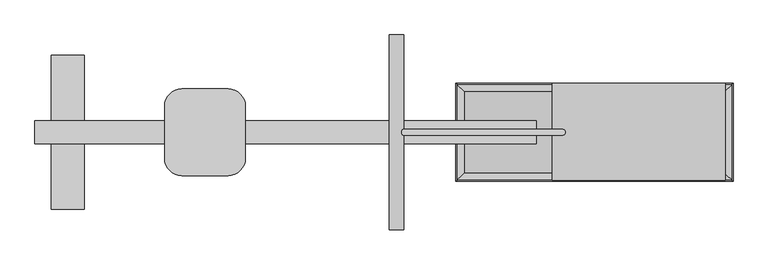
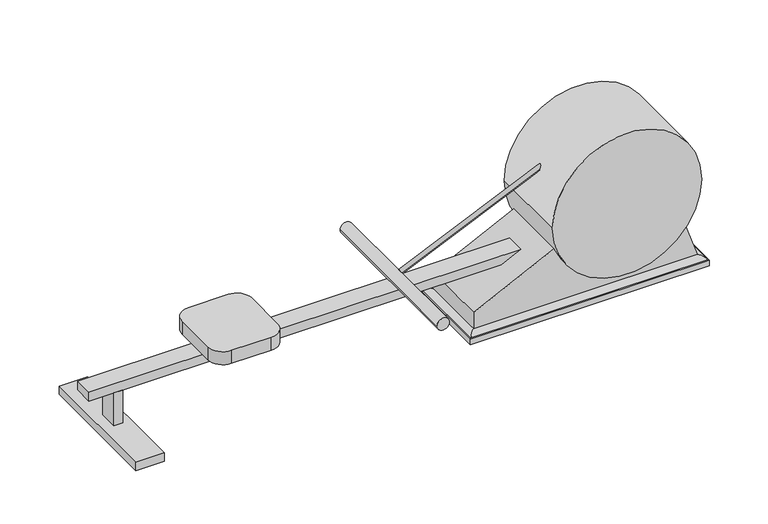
"""IFC4 building model written with IfcOpenShell, lengths in millimetres: proxy geometry, Rowing_Machine : Rowing_Machine."""

from ifc_helpers import new_model, si_unit, point, frame, frame_2d, origin, place, context, project, spatial, polyline, circle_curve, ellipse_curve, trimmed, segment, composite_curve, outline, extrude, source, transform, mapped, element, save
from ifc_brep_helpers import plane_surface, cylinder_surface, advanced_brep


def generic_models_89150c6d(model_context):
    return source(origin(), model_context, "Body", "SolidModel", [
        extrude(outline(composite_curve([segment(trimmed(circle_curve(frame_2d((0.0, -10.0)), 10.0), [point((0.0, -20.0))], [point((0.0, 0.0))], False, "CARTESIAN"), True, "CONTINUOUS"), segment(trimmed(circle_curve(frame_2d((0.0, -10.0)), 10.0), [point((0.0, 0.0))], [point((0.0, -20.0))], False, "CARTESIAN"), True, "CONTINUOUS")], self_intersect=False)), frame((274.6475494, 10.0, 271.2129273), z_axis=(0.9135454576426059, 0.0, 0.40673664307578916), x_axis=(0.40673664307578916, 0.0, -0.9135454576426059)), (0.0, 0.0, 1.0), 683.4765377),
        extrude(outline(composite_curve([segment(trimmed(circle_curve(frame_2d((261.8075714, 252.782963)), 25.0), [point((261.8075714, 227.782963))], [point((261.8075714, 277.782963))], False, "CARTESIAN"), True, "CONTINUOUS"), segment(trimmed(circle_curve(frame_2d((261.8075714, 252.782963)), 25.0), [point((261.8075714, 277.782963))], [point((261.8075714, 227.782963))], False, "CARTESIAN"), True, "CONTINUOUS")], self_intersect=False)), frame((0.0, -337.3168164, 0.0), z_axis=(0.0, 1.0, 0.0), x_axis=(0.0, 0.0, 1.0)), (0.0, 0.0, 1.0), 674.6336328),
        extrude(outline(polyline([(-828.5371111, -267.0975454), (-943.5371111, -267.0975454), (-943.5371111, 267.0975454), (-828.5371111, 267.0975454), (-828.5371111, -267.0975454)])), frame((0.0, 0.0, 15.0), z_axis=(0.0, 0.0, 1.0), x_axis=(1.0, 0.0, 0.0)), (0.0, 0.0, 1.0), 35.0),
        extrude(outline(polyline([(-865.0, -39.2377817), (-900.0, -39.2377817), (-900.0, 39.2377817), (-865.0, 39.2377817), (-865.0, -39.2377817)])), frame((0.0, 0.0, 51.6784333), z_axis=(0.0, 0.0, 1.0), x_axis=(1.0, 0.0, 0.0)), (0.0, 0.0, 1.0), 140.0),
        extrude(outline(polyline([(241.1168746, -314.73941), (241.1168746, -490.9165532), (188.4646802, -465.0509869), (188.4646802, -340.6049763), (241.1168746, -314.73941)])), frame((0.0, -44.2724638, 0.0), z_axis=(0.0, 1.0, 0.0), x_axis=(0.0, 0.0, 1.0)), (0.0, 0.0, 1.0), 89.2221097),
        extrude(outline(composite_curve([segment(polyline([(-330.9165532, -150.0), (-490.9165532, -150.0)]), True, "CONTINUOUS"), segment(trimmed(circle_curve(frame_2d((-490.9165532, -90.0)), 60.0), [point((-490.9165532, -150.0))], [point((-550.9165532, -90.0))], False, "CARTESIAN"), True, "CONTINUOUS"), segment(polyline([(-550.9165532, -90.0), (-550.9165532, 90.0)]), True, "CONTINUOUS"), segment(trimmed(circle_curve(frame_2d((-490.9165532, 90.0)), 60.0), [point((-550.9165532, 90.0))], [point((-490.9165532, 150.0))], False, "CARTESIAN"), True, "CONTINUOUS"), segment(polyline([(-490.9165532, 150.0), (-330.9165532, 150.0)]), True, "CONTINUOUS"), segment(trimmed(circle_curve(frame_2d((-330.9165532, 90.0)), 60.0), [point((-330.9165532, 150.0))], [point((-270.9165532, 90.0))], False, "CARTESIAN"), True, "CONTINUOUS"), segment(polyline([(-270.9165532, 90.0), (-270.9165532, -90.0)]), True, "CONTINUOUS"), segment(trimmed(circle_curve(frame_2d((-330.9165532, -90.0)), 60.0), [point((-270.9165532, -90.0))], [point((-330.9165532, -150.0))], False, "CARTESIAN"), True, "CONTINUOUS")], self_intersect=False)), frame((0.0, 0.0, 241.1168746), z_axis=(0.0, 0.0, 1.0), x_axis=(1.0, 0.0, 0.0)), (0.0, 0.0, 1.0), 55.6926138),
        extrude(outline(polyline([(799.82296, -39.2377817), (-1000.17704, -39.2377817), (-1000.17704, 39.2377817), (799.82296, 39.2377817), (799.82296, -39.2377817)])), frame((0.0, 0.0, 191.6784333), z_axis=(0.0, 0.0, 1.0), x_axis=(1.0, 0.0, 0.0)), (0.0, 0.0, 1.0), 38.0),
        advanced_brep(
        [(463.0713291, 165.6750761, 25.0), (489.0520912, 139.694314, 40.0), (1389.0520912, 139.694314, 40.0), (1415.0328533, 165.6750761, 25.0), (458.741202, 170.0052031, 22.5), (1419.3629803, 170.0052031, 22.5), (458.741202, 170.0052031, 0.0), (1419.3629803, 170.0052031, 0.0), (489.0520912, 139.694314, 0.0), (1389.0520912, 139.694314, 0.0), (1389.0520912, -139.694314, 40.0), (1415.0328533, -165.6750761, 25.0), (1419.3629803, -170.0052031, 22.5), (1419.3629803, -170.0052031, 0.0), (1389.0520912, -139.694314, 0.0), (489.0520912, -139.694314, 40.0), (463.0713291, -165.6750761, 25.0), (458.741202, -170.0052031, 22.5), (458.741202, -170.0052031, 0.0), (489.0520912, -139.694314, 0.0)],
        [
            (0, 1, ellipse_curve(frame((486.8674433, 141.8789619, 13.7839212), z_axis=(0.7071067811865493, 0.7071067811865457, 0.0), x_axis=(-0.7071067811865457, 0.7071067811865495, 0.0)), 37.2036417, 26.3069473)),
            (1, 2),
            (2, 3, ellipse_curve(frame((1391.2367391, 141.8789619, 13.7839212), z_axis=(-0.7071067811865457, 0.7071067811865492, 0.0), x_axis=(-0.7071067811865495, -0.7071067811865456, 0.0)), 37.2036417, 26.3069473)),
            (3, 0),
            (4, 0),
            (3, 5),
            (5, 4),
            (6, 4),
            (5, 7),
            (7, 6),
            (1, 8),
            (8, 9),
            (9, 2),
            (2, 10),
            (10, 11, ellipse_curve(frame((1391.2367391, -141.8789619, 13.7839212), z_axis=(0.7071067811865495, 0.7071067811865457, 0.0), x_axis=(-0.7071067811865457, 0.7071067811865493, 0.0)), 37.2036417, 26.3069473)),
            (11, 3),
            (11, 12),
            (12, 5),
            (12, 13),
            (13, 7),
            (9, 14),
            (14, 10),
            (10, 15),
            (15, 16, ellipse_curve(frame((486.8674433, -141.8789619, 13.7839212), z_axis=(0.7071067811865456, -0.7071067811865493, 0.0), x_axis=(0.7071067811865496, 0.7071067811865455, 0.0)), 37.2036417, 26.3069473)),
            (16, 11),
            (16, 17),
            (17, 12),
            (17, 18),
            (18, 13),
            (14, 19),
            (19, 15),
            (15, 1),
            (0, 16),
            (4, 17),
            (6, 18),
            (8, 19),
        ],
        [
            cylinder_surface(frame((489.0520912, 141.8789619, 13.7839212), z_axis=(-1.0, 0.0, 0.0), x_axis=(0.0, 1.0, 0.0)), 26.3069473),
            plane_surface(frame((463.0713291, 165.6750761, 25.0), z_axis=(0.0, 0.5000000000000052, 0.8660254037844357), x_axis=(1.0, 0.0, 0.0))),
            plane_surface(frame((458.741202, 170.0052031, 22.5), z_axis=(0.0, 1.0, 0.0), x_axis=(1.0, 0.0, 0.0))),
            plane_surface(frame((489.0520912, 139.694314, 0.0), z_axis=(0.0, -1.0, 0.0), x_axis=(1.0, 0.0, 0.0))),
            cylinder_surface(frame((1391.2367391, 139.694314, 13.7839212), z_axis=(0.0, 1.0, 0.0), x_axis=(1.0, 0.0, 0.0)), 26.3069473),
            plane_surface(frame((1415.0328533, 165.6750761, 25.0), z_axis=(0.5000000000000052, 0.0, 0.8660254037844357), x_axis=(0.0, -1.0, 0.0))),
            plane_surface(frame((1419.3629803, 170.0052031, 22.5), z_axis=(1.0, 0.0, 0.0), x_axis=(0.0, -1.0, 0.0))),
            plane_surface(frame((1389.0520912, 139.694314, 0.0), z_axis=(-1.0, 0.0, 0.0), x_axis=(0.0, -1.0, 0.0))),
            cylinder_surface(frame((1389.0520912, -141.8789619, 13.7839212), z_axis=(1.0, 0.0, 0.0), x_axis=(0.0, -1.0, 0.0)), 26.3069473),
            plane_surface(frame((1415.0328533, -165.6750761, 25.0), z_axis=(0.0, -0.5000000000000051, 0.8660254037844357), x_axis=(-1.0, 0.0, 0.0))),
            plane_surface(frame((1419.3629803, -170.0052031, 22.5), z_axis=(0.0, -1.0, 0.0), x_axis=(-1.0, 0.0, 0.0))),
            plane_surface(frame((1389.0520912, -139.694314, 0.0), z_axis=(0.0, 1.0, 0.0), x_axis=(-1.0, 0.0, 0.0))),
            cylinder_surface(frame((486.8674433, -139.694314, 13.7839212), z_axis=(0.0, -1.0, 0.0), x_axis=(-1.0, 0.0, 0.0)), 26.3069473),
            plane_surface(frame((463.0713291, -165.6750761, 25.0), z_axis=(-0.5000000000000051, 0.0, 0.8660254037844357), x_axis=(0.0, 1.0, 0.0))),
            plane_surface(frame((458.741202, -170.0052031, 22.5), z_axis=(-1.0, 0.0, 0.0), x_axis=(0.0, 1.0, 0.0))),
            plane_surface(frame((458.741202, -170.0052031, 0.0), z_axis=(0.0, 0.0, -1.0), x_axis=(0.0, 1.0, 0.0))),
            plane_surface(frame((489.0520912, -139.694314, 0.0), z_axis=(1.0, 0.0, 0.0), x_axis=(0.0, 1.0, 0.0))),
        ],
        [
            (0, [[1, 2, 3, 4]]),
            (1, [[5, -4, 6, 7]]),
            (2, [[8, -7, 9, 10]]),
            (3, [[11, 12, 13, -2]]),
            (4, [[-3, 14, 15, 16]]),
            (5, [[-6, -16, 17, 18]]),
            (6, [[-9, -18, 19, 20]]),
            (7, [[-13, 21, 22, -14]]),
            (8, [[-15, 23, 24, 25]]),
            (9, [[-17, -25, 26, 27]]),
            (10, [[-19, -27, 28, 29]]),
            (11, [[-22, 30, 31, -23]]),
            (12, [[-24, 32, -1, 33]]),
            (13, [[-26, -33, -5, 34]]),
            (14, [[-28, -34, -8, 35]]),
            (15, [[-20, -29, -35, -10], [36, -30, -21, -12]]),
            (16, [[-31, -36, -11, -32]]),
        ],
    ),
        extrude(outline(composite_curve([segment(trimmed(circle_curve(frame_2d((375.7619012, 1091.8231939)), 280.0), [point((223.2047125, 1326.6131089))], [point((274.9689512, 830.5938288))], True, "CARTESIAN"), True, "CONTINUOUS"), segment(polyline([(274.9689512, 830.5938288), (108.3879154, 489.0520912), (8.3879154, 489.0520912), (8.3879154, 1389.0520912), (41.8687409, 1389.0520912), (223.2047125, 1326.6131089)]), True, "CONTINUOUS")], self_intersect=False)), frame((0.0, -139.694314, 0.0), z_axis=(0.0, 1.0, 0.0), x_axis=(0.0, 0.0, 1.0)), (0.0, 0.0, 1.0), 279.388628),
        extrude(outline(composite_curve([segment(trimmed(circle_curve(frame_2d((375.7619012, 1091.8231939)), 300.0), [point((375.7619012, 791.8231939))], [point((375.7619012, 1391.8231939))], False, "CARTESIAN"), True, "CONTINUOUS"), segment(trimmed(circle_curve(frame_2d((375.7619012, 1091.8231939)), 300.0), [point((375.7619012, 1391.8231939))], [point((375.7619012, 791.8231939))], False, "CARTESIAN"), True, "CONTINUOUS")], self_intersect=False)), frame((0.0, -165.6750761, 0.0), z_axis=(0.0, 1.0, 0.0), x_axis=(0.0, 0.0, 1.0)), (0.0, 0.0, 1.0), 335.6802792),
    ])


if __name__ == "__main__":
    model = new_model("IFC4")
    model_context = context("Model", 3, world=origin())
    ifc_project = project(units=[si_unit("LENGTHUNIT", "METRE", prefix="MILLI")], contexts=[model_context])
    site = spatial("IfcSite", under=ifc_project)
    building = spatial("IfcBuilding", under=site)
    placement = place(None, origin())
    generic_models_shape = generic_models_89150c6d(model_context)
    element("IfcBuildingElementProxy", 1, Name="Rowing_Machine : Rowing_Machine", ObjectType="Rowing_Machine : Rowing_Machine", at=placement, inside=building, context=model_context, shape_type="MappedRepresentation", body=[
        mapped(generic_models_shape, transform((0.0, 0.0, 0.0), x_axis=(1.0, 0.0, 0.0), y_axis=(0.0, 1.0, 0.0), z_axis=(0.0, 0.0, 1.0))),
    ])
    save(model, "model.ifc")
